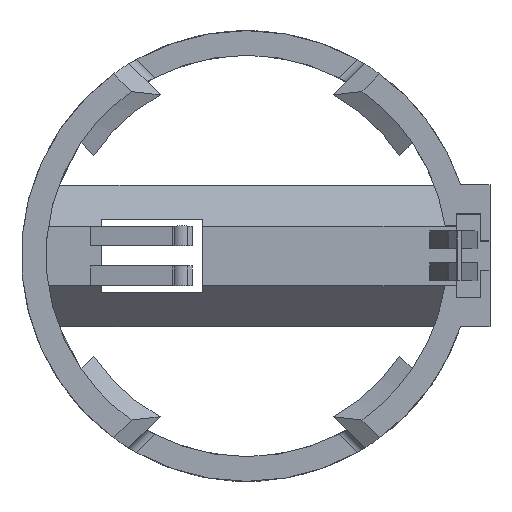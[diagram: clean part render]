
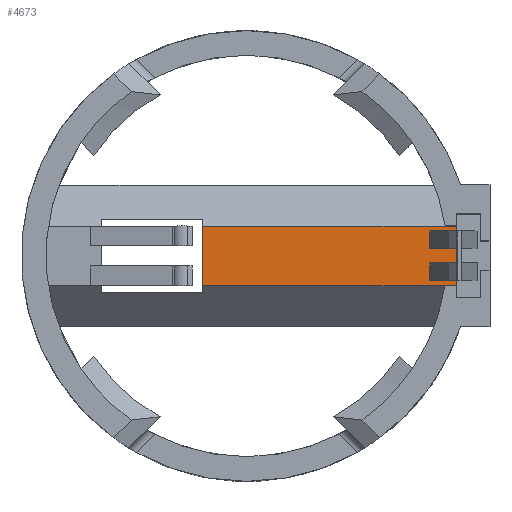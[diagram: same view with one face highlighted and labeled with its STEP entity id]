
A CAD part, top view. The second image highlights one B-rep face of the part: STEP entity #4673.
In plain terms, the highlighted planar face has unit normal (0, 0, 1).
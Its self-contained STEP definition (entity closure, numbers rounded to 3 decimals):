
#101=PLANE('',#4917);
#448=LINE('',#6806,#830);
#452=LINE('',#6813,#834);
#463=LINE('',#6833,#845);
#464=LINE('',#6835,#846);
#489=LINE('',#6912,#871);
#494=LINE('',#6921,#876);
#830=VECTOR('',#5478,1000.);
#834=VECTOR('',#5484,1000.);
#845=VECTOR('',#5499,1000.);
#846=VECTOR('',#5502,1000.);
#871=VECTOR('',#5571,1000.);
#876=VECTOR('',#5580,1000.);
#1599=ORIENTED_EDGE('',*,*,#2336,.T.);
#1600=ORIENTED_EDGE('',*,*,#2335,.F.);
#1601=ORIENTED_EDGE('',*,*,#2372,.T.);
#1602=ORIENTED_EDGE('',*,*,#2324,.F.);
#1603=ORIENTED_EDGE('',*,*,#2320,.T.);
#1604=ORIENTED_EDGE('',*,*,#2367,.T.);
#2320=EDGE_CURVE('',#2712,#2760,#448,.T.);
#2324=EDGE_CURVE('',#2712,#2762,#452,.F.);
#2335=EDGE_CURVE('',#2768,#2719,#463,.T.);
#2336=EDGE_CURVE('',#2769,#2719,#464,.F.);
#2367=EDGE_CURVE('',#2760,#2769,#489,.T.);
#2372=EDGE_CURVE('',#2768,#2762,#494,.F.);
#2712=VERTEX_POINT('',#6629);
#2719=VERTEX_POINT('',#6645);
#2760=VERTEX_POINT('',#6807);
#2762=VERTEX_POINT('',#6814);
#2768=VERTEX_POINT('',#6832);
#2769=VERTEX_POINT('',#6836);
#3037=EDGE_LOOP('',(#1599,#1600,#1601,#1602,#1603,#1604));
#3221=FACE_BOUND('',#3037,.T.);
#4673=ADVANCED_FACE('',(#3221),#101,.T.);
#4917=AXIS2_PLACEMENT_3D('',#6920,#5578,#5579);
#5478=DIRECTION('',(1.,0.,0.));
#5484=DIRECTION('',(1.,0.,0.));
#5499=DIRECTION('',(1.,0.,0.));
#5502=DIRECTION('',(1.,0.,0.));
#5571=DIRECTION('',(0.,1.,0.));
#5578=DIRECTION('',(0.,0.,1.));
#5579=DIRECTION('',(1.,0.,0.));
#5580=DIRECTION('',(0.,1.,0.));
#6629=CARTESIAN_POINT('',(9.948,-1.5,-4.6));
#6645=CARTESIAN_POINT('',(9.948,1.5,-4.6));
#6806=CARTESIAN_POINT('',(10.68,-1.5,-4.6));
#6807=CARTESIAN_POINT('',(10.5,-1.5,-4.6));
#6813=CARTESIAN_POINT('',(10.68,-1.5,-4.6));
#6814=CARTESIAN_POINT('',(-2.2,-1.5,-4.6));
#6832=CARTESIAN_POINT('',(-2.2,1.5,-4.6));
#6833=CARTESIAN_POINT('',(10.68,1.5,-4.6));
#6835=CARTESIAN_POINT('',(10.5,1.5,-4.6));
#6836=CARTESIAN_POINT('',(10.5,1.5,-4.6));
#6912=CARTESIAN_POINT('',(10.5,2.1,-4.6));
#6920=CARTESIAN_POINT('',(10.68,-1.5,-4.6));
#6921=CARTESIAN_POINT('',(-2.2,-1.5,-4.6));
